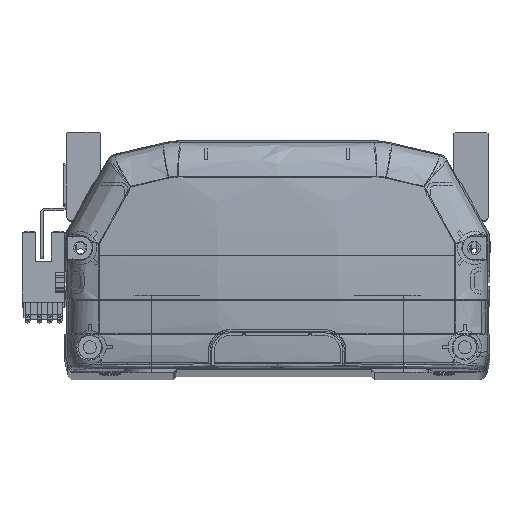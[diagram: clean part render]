
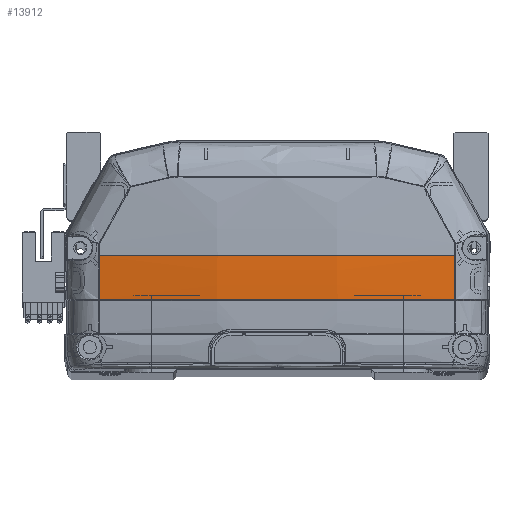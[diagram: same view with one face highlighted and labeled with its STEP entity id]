
A CAD part, top view. The second image highlights one B-rep face of the part: STEP entity #13912.
In plain terms, the highlighted free-form (B-spline) face has degree [3, 3] with [4, 4] control points.
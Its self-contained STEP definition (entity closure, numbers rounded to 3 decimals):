
#439 = CARTESIAN_POINT ( 'NONE',  ( 19.295, 26.549, -11.419 ) ) ;
#762 = CARTESIAN_POINT ( 'NONE',  ( -57.335, 22.148, -4.7 ) ) ;
#1261 = CARTESIAN_POINT ( 'NONE',  ( 11.954, 22.225, -9.367 ) ) ;
#1843 = B_SPLINE_CURVE_WITH_KNOTS ( 'NONE', 3,
 ( #26284, #44378, #18659, #11337 ),
 .UNSPECIFIED., .F., .F.,
 ( 4, 4 ),
 ( 0., 1. ),
 .UNSPECIFIED. ) ;
#2468 = CARTESIAN_POINT ( 'NONE',  ( -56.661, 22.225, -4.818 ) ) ;
#3469 = VERTEX_POINT ( 'NONE', #2468 ) ;
#4210 = CARTESIAN_POINT ( 'NONE',  ( -19.295, 21.828, -11.186 ) ) ;
#4543 = CARTESIAN_POINT ( 'NONE',  ( 47.432, 22.225, -6.377 ) ) ;
#4615 = EDGE_CURVE ( 'NONE', #30410, #32041, #46404, .T. ) ;
#4645 = CARTESIAN_POINT ( 'NONE',  ( -56.647, 36., -5.158 ) ) ;
#8796 = CARTESIAN_POINT ( 'NONE',  ( 23.877, 22.225, -8.763 ) ) ;
#10122 = DIRECTION ( 'NONE',  ( -1., 0., 0. ) ) ;
#10270 = EDGE_CURVE ( 'NONE', #32041, #29936, #10764, .T. ) ;
#10380 = CARTESIAN_POINT ( 'NONE',  ( 56.647, 36., -5.158 ) ) ;
#10593 = CARTESIAN_POINT ( 'NONE',  ( 19.295, 36., -11.535 ) ) ;
#10764 = CIRCLE ( 'NONE', #27805, 340.733 ) ;
#11337 = CARTESIAN_POINT ( 'NONE',  ( 56.647, 35.969, -5.158 ) ) ;
#11885 = CARTESIAN_POINT ( 'NONE',  ( 2.357, 22.225, -9.562 ) ) ;
#13130 = CARTESIAN_POINT ( 'NONE',  ( 56.661, 22.225, -4.818 ) ) ;
#13912 = ADVANCED_FACE ( 'NONE', ( #25601 ), #45307, .T. ) ;
#14313 = DIRECTION ( 'NONE',  ( 0., 0., -1. ) ) ;
#15781 = CARTESIAN_POINT ( 'NONE',  ( 38.071, 22.225, -7.566 ) ) ;
#18659 = CARTESIAN_POINT ( 'NONE',  ( 56.647, 31.387, -5.158 ) ) ;
#19042 = CARTESIAN_POINT ( 'NONE',  ( 57.335, 26.762, -4.928 ) ) ;
#19198 = CARTESIAN_POINT ( 'NONE',  ( -19.295, 31.274, -11.535 ) ) ;
#19535 = CARTESIAN_POINT ( 'NONE',  ( -38.235, 22.225, -7.93 ) ) ;
#20387 = B_SPLINE_CURVE_WITH_KNOTS ( 'NONE', 3,
 ( #34223, #4543, #15781, #8796, #23293, #1261, #38107, #30500, #11885, #41866, #31138, #19535, #41702 ),
 .UNSPECIFIED., .F., .F.,
 ( 4, 2, 2, 1, 2, 2, 4 ),
 ( 0., 0.25, 0.375, 0.438, 0.469, 0.5, 1. ),
 .UNSPECIFIED. ) ;
#20934 = ORIENTED_EDGE ( 'NONE', *, *, #34654, .F. ) ;
#21797 = ORIENTED_EDGE ( 'NONE', *, *, #4615, .F. ) ;
#21883 = CARTESIAN_POINT ( 'NONE',  ( -56.647, 36., -5.158 ) ) ;
#22380 = CARTESIAN_POINT ( 'NONE',  ( -56.661, 22.225, -4.818 ) ) ;
#22799 = CARTESIAN_POINT ( 'NONE',  ( 19.295, 21.828, -11.186 ) ) ;
#22951 = CARTESIAN_POINT ( 'NONE',  ( -19.295, 36., -11.535 ) ) ;
#23271 = CARTESIAN_POINT ( 'NONE',  ( -57.335, 36., -5.042 ) ) ;
#23293 = CARTESIAN_POINT ( 'NONE',  ( 19.121, 22.225, -9.064 ) ) ;
#25601 = FACE_OUTER_BOUND ( 'NONE', #45385, .T. ) ;
#25784 = CARTESIAN_POINT ( 'NONE',  ( -56.647, 31.405, -5.158 ) ) ;
#26108 = AXIS2_PLACEMENT_3D ( 'NONE', #28860, #35715, #10122 ) ;
#26284 = CARTESIAN_POINT ( 'NONE',  ( 56.661, 22.225, -4.818 ) ) ;
#26538 = CARTESIAN_POINT ( 'NONE',  ( 19.295, 31.274, -11.535 ) ) ;
#26863 = CARTESIAN_POINT ( 'NONE',  ( -57.335, 26.762, -4.928 ) ) ;
#27805 = AXIS2_PLACEMENT_3D ( 'NONE', #32929, #36665, #14313 ) ;
#28860 = CARTESIAN_POINT ( 'NONE',  ( 6452.613, 35.969, -5.158 ) ) ;
#29936 = VERTEX_POINT ( 'NONE', #4645 ) ;
#30331 = CARTESIAN_POINT ( 'NONE',  ( -19.295, 26.549, -11.419 ) ) ;
#30410 = VERTEX_POINT ( 'NONE', #36452 ) ;
#30500 = CARTESIAN_POINT ( 'NONE',  ( 4.761, 22.225, -9.537 ) ) ;
#30802 = CARTESIAN_POINT ( 'NONE',  ( -57.335, 31.38, -5.042 ) ) ;
#31138 = CARTESIAN_POINT ( 'NONE',  ( -19.28, 22.225, -9.565 ) ) ;
#32041 = VERTEX_POINT ( 'NONE', #10380 ) ;
#32921 = CARTESIAN_POINT ( 'NONE',  ( 57.335, 31.38, -5.042 ) ) ;
#32929 = CARTESIAN_POINT ( 'NONE',  ( 0., 36., 330.833 ) ) ;
#34013 = ORIENTED_EDGE ( 'NONE', *, *, #37787, .F. ) ;
#34223 = CARTESIAN_POINT ( 'NONE',  ( 56.661, 22.225, -4.818 ) ) ;
#34654 = EDGE_CURVE ( 'NONE', #46402, #30410, #1843, .T. ) ;
#35715 = DIRECTION ( 'NONE',  ( 0., 0., -1. ) ) ;
#36452 = CARTESIAN_POINT ( 'NONE',  ( 56.647, 35.969, -5.158 ) ) ;
#36665 = DIRECTION ( 'NONE',  ( 0., 1., 0. ) ) ;
#37787 = EDGE_CURVE ( 'NONE', #29936, #3469, #48123, .T. ) ;
#38107 = CARTESIAN_POINT ( 'NONE',  ( 8.363, 22.225, -9.48 ) ) ;
#39252 = EDGE_CURVE ( 'NONE', #46402, #3469, #20387, .T. ) ;
#40992 = ORIENTED_EDGE ( 'NONE', *, *, #39252, .T. ) ;
#41702 = CARTESIAN_POINT ( 'NONE',  ( -56.661, 22.225, -4.818 ) ) ;
#41866 = CARTESIAN_POINT ( 'NONE',  ( 1.152, 22.225, -9.568 ) ) ;
#42788 = ORIENTED_EDGE ( 'NONE', *, *, #10270, .F. ) ;
#44378 = CARTESIAN_POINT ( 'NONE',  ( 56.652, 26.806, -5.044 ) ) ;
#45103 = CARTESIAN_POINT ( 'NONE',  ( 57.335, 36., -5.042 ) ) ;
#45307 =( BOUNDED_SURFACE ( )  B_SPLINE_SURFACE ( 3, 3, ( 
 ( #47882, #19042, #32921, #45103 ),
 ( #22799, #439, #26538, #10593 ),
 ( #4210, #30331, #19198, #22951 ),
 ( #762, #26863, #30802, #23271 ) ),
 .UNSPECIFIED., .F., .F., .F. ) 
 B_SPLINE_SURFACE_WITH_KNOTS ( ( 4, 4 ),
 ( 4, 4 ),
 ( 0., 1. ),
 ( 0., 1. ),
 .UNSPECIFIED. ) 
 GEOMETRIC_REPRESENTATION_ITEM ( )  RATIONAL_B_SPLINE_SURFACE ( (
 ( 1., 1., 1., 1.),
 ( 0.99, 0.99, 0.99, 0.99),
 ( 0.99, 0.99, 0.99, 0.99),
 ( 1., 1., 1., 1.) ) ) 
 REPRESENTATION_ITEM ( '' )  SURFACE ( )  );
#45385 = EDGE_LOOP ( 'NONE', ( #42788, #21797, #20934, #40992, #34013 ) ) ;
#46402 = VERTEX_POINT ( 'NONE', #13130 ) ;
#46404 = CIRCLE ( 'NONE', #26108, 6395.966 ) ;
#47882 = CARTESIAN_POINT ( 'NONE',  ( 57.335, 22.148, -4.7 ) ) ;
#47953 = CARTESIAN_POINT ( 'NONE',  ( -56.652, 26.814, -5.045 ) ) ;
#48123 = B_SPLINE_CURVE_WITH_KNOTS ( 'NONE', 3,
 ( #21883, #25784, #47953, #22380 ),
 .UNSPECIFIED., .F., .F.,
 ( 4, 4 ),
 ( 0., 1. ),
 .UNSPECIFIED. ) ;
